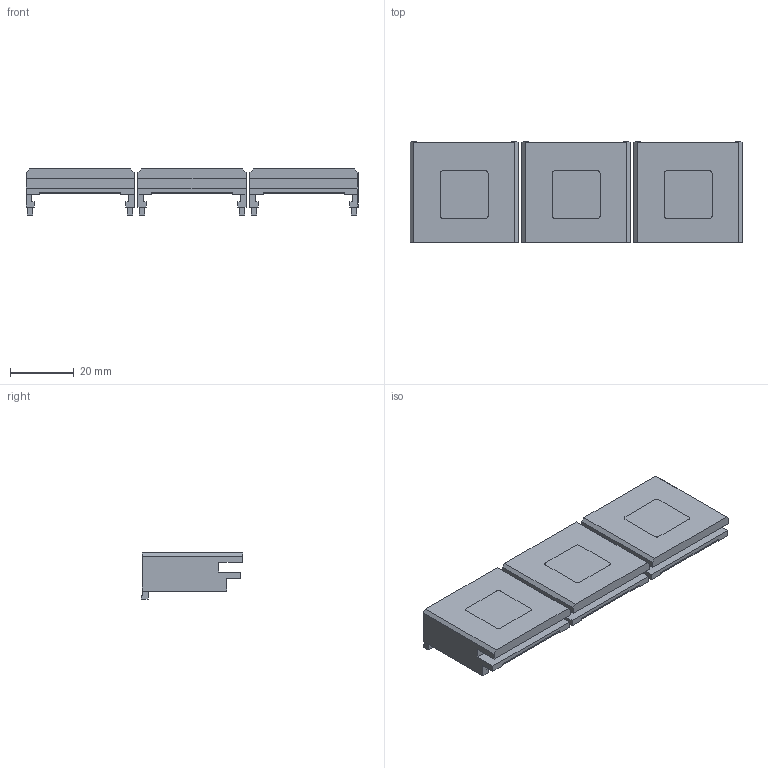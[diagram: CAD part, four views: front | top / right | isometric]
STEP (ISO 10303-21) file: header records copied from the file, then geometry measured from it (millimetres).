
FILE_DESCRIPTION(/* description */ (''),/* implementation_level */ '2;1');
FILE_NAME(/* name */ 'LA-2237-0009#-A.stp',/* time_stamp */ '2012-09-04T14:38:23+01:00',/* author */ (''),/* organization */ (''),/* preprocessor_version */ 'ST-DEVELOPER v11',/* originating_system */ 'SIEMENS PLM Software NX 7.5',/* authorisation */ '');
FILE_SCHEMA (('AUTOMOTIVE_DESIGN { 1 0 10303 214 1 1 1 1 }'));
Length unit declared in the file: millimetre
Products named in the file (1): rt133622tjqz
Bounding box: 104.5 x 31.8 x 14.5 mm (x, y, z)
Volume: 16003.1 mm3; surface area: 13051.5 mm2
Topology: 3 solids, 3 shells, 135 faces, 402 edges, 276 vertices
Faces by surface type: plane 135
Entity records: 4599 total; most frequent: CARTESIAN_POINT 814, ORIENTED_EDGE 804, DIRECTION 686, EDGE_CURVE 402, LINE 390, VECTOR 390, VERTEX_POINT 276, AXIS2_PLACEMENT_3D 148
